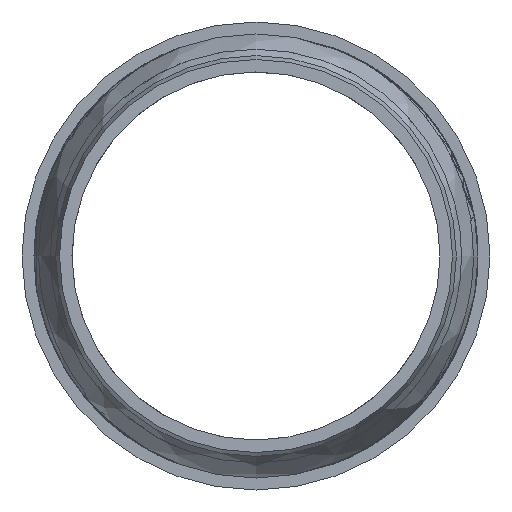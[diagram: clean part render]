
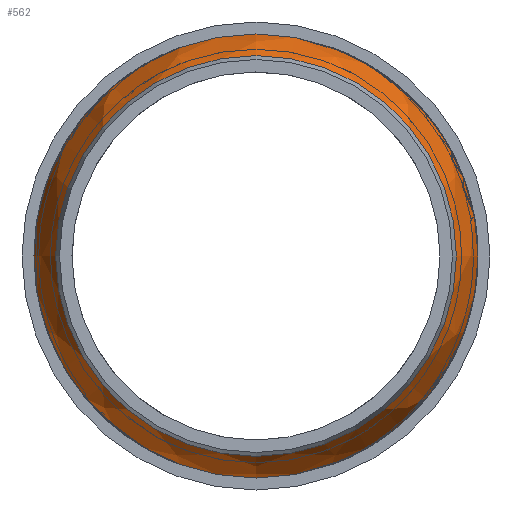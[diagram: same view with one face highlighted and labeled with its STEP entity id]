
A CAD part, left-side view. The second image highlights one B-rep face of the part: STEP entity #562.
In plain terms, the highlighted free-form (B-spline) face has degree [2, 2] with [3, 9] control points.
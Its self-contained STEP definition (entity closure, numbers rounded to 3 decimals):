
#11=(
BOUNDED_CURVE()
B_SPLINE_CURVE(2,(#2081,#2082,#2083),.UNSPECIFIED.,.F.,.F.)
B_SPLINE_CURVE_WITH_KNOTS((3,3),(0.138,0.646),
 .UNSPECIFIED.)
CURVE()
GEOMETRIC_REPRESENTATION_ITEM()
RATIONAL_B_SPLINE_CURVE((1.,0.968,1.))
REPRESENTATION_ITEM('')
);
#12=(
BOUNDED_SURFACE()
B_SPLINE_SURFACE(2,2,((#2054,#2055,#2056,#2057,#2058,#2059,#2060,#2061,
#2062),(#2063,#2064,#2065,#2066,#2067,#2068,#2069,#2070,#2071),(#2072,#2073,
#2074,#2075,#2076,#2077,#2078,#2079,#2080)),.UNSPECIFIED.,.F.,.T.,.F.)
B_SPLINE_SURFACE_WITH_KNOTS((3,3),(3,2,2,2,3),(-0.646,-0.138),
(-3.142,-1.571,0.,1.571,3.142),
 .UNSPECIFIED.)
GEOMETRIC_REPRESENTATION_ITEM()
RATIONAL_B_SPLINE_SURFACE(((1.,0.707,1.,0.707,1.,
0.707,1.,0.707,1.),(0.968,0.684,
0.968,0.684,0.968,0.684,
0.968,0.684,0.968),(1.,0.707,
1.,0.707,1.,0.707,1.,0.707,1.)))
REPRESENTATION_ITEM('')
SURFACE()
);
#147=FACE_OUTER_BOUND('',#207,.T.);
#207=EDGE_LOOP('',(#468,#469,#470,#471,#472,#473,#474));
#233=CIRCLE('',#603,61.05);
#234=CIRCLE('',#604,61.05);
#235=CIRCLE('',#605,61.05);
#241=CIRCLE('',#624,55.1);
#242=CIRCLE('',#625,55.1);
#275=VERTEX_POINT('',#1397);
#284=VERTEX_POINT('',#1789);
#285=VERTEX_POINT('',#1790);
#296=VERTEX_POINT('',#2050);
#297=VERTEX_POINT('',#2051);
#343=EDGE_CURVE('',#284,#285,#233,.T.);
#344=EDGE_CURVE('',#285,#275,#234,.T.);
#345=EDGE_CURVE('',#275,#284,#235,.T.);
#357=EDGE_CURVE('',#296,#297,#241,.T.);
#358=EDGE_CURVE('',#297,#296,#242,.T.);
#359=EDGE_CURVE('',#285,#297,#11,.T.);
#468=ORIENTED_EDGE('',*,*,#343,.F.);
#469=ORIENTED_EDGE('',*,*,#345,.F.);
#470=ORIENTED_EDGE('',*,*,#344,.F.);
#471=ORIENTED_EDGE('',*,*,#359,.T.);
#472=ORIENTED_EDGE('',*,*,#358,.T.);
#473=ORIENTED_EDGE('',*,*,#357,.T.);
#474=ORIENTED_EDGE('',*,*,#359,.F.);
#562=ADVANCED_FACE('',(#147),#12,.F.);
#603=AXIS2_PLACEMENT_3D('',#1791,#697,#698);
#604=AXIS2_PLACEMENT_3D('',#1792,#699,#700);
#605=AXIS2_PLACEMENT_3D('',#1793,#701,#702);
#624=AXIS2_PLACEMENT_3D('',#2052,#739,#740);
#625=AXIS2_PLACEMENT_3D('',#2053,#741,#742);
#697=DIRECTION('center_axis',(1.,0.,0.));
#698=DIRECTION('ref_axis',(0.,0.,1.));
#699=DIRECTION('center_axis',(1.,0.,0.));
#700=DIRECTION('ref_axis',(0.,0.,1.));
#701=DIRECTION('center_axis',(1.,0.,0.));
#702=DIRECTION('ref_axis',(0.,0.,1.));
#739=DIRECTION('center_axis',(1.,0.,0.));
#740=DIRECTION('ref_axis',(0.,0.,1.));
#741=DIRECTION('center_axis',(1.,0.,0.));
#742=DIRECTION('ref_axis',(0.,0.,1.));
#1397=CARTESIAN_POINT('',(1511.5,61.05,0.));
#1789=CARTESIAN_POINT('',(1511.5,-61.05,0.));
#1790=CARTESIAN_POINT('',(1511.5,0.,-61.05));
#1791=CARTESIAN_POINT('Origin',(1511.5,0.,
0.));
#1792=CARTESIAN_POINT('Origin',(1511.5,0.,
0.));
#1793=CARTESIAN_POINT('Origin',(1511.5,0.,
0.));
#2050=CARTESIAN_POINT('',(1497.1,-55.1,0.));
#2051=CARTESIAN_POINT('',(1497.1,0.,-55.1));
#2052=CARTESIAN_POINT('Origin',(1497.1,0.,
0.));
#2053=CARTESIAN_POINT('Origin',(1497.1,0.,
0.));
#2054=CARTESIAN_POINT('Ctrl Pts',(1497.1,0.,
-55.1));
#2055=CARTESIAN_POINT('Ctrl Pts',(1497.1,55.1,-55.1));
#2056=CARTESIAN_POINT('Ctrl Pts',(1497.1,55.1,0.));
#2057=CARTESIAN_POINT('Ctrl Pts',(1497.1,55.1,55.1));
#2058=CARTESIAN_POINT('Ctrl Pts',(1497.1,0.,
55.1));
#2059=CARTESIAN_POINT('Ctrl Pts',(1497.1,-55.1,55.1));
#2060=CARTESIAN_POINT('Ctrl Pts',(1497.1,-55.1,0.));
#2061=CARTESIAN_POINT('Ctrl Pts',(1497.1,-55.1,-55.1));
#2062=CARTESIAN_POINT('Ctrl Pts',(1497.1,0.,
-55.1));
#2063=CARTESIAN_POINT('Ctrl Pts',(1503.528,0.,
-59.944));
#2064=CARTESIAN_POINT('Ctrl Pts',(1503.528,59.944,-59.944));
#2065=CARTESIAN_POINT('Ctrl Pts',(1503.528,59.944,0.));
#2066=CARTESIAN_POINT('Ctrl Pts',(1503.528,59.944,59.944));
#2067=CARTESIAN_POINT('Ctrl Pts',(1503.528,0.,
59.944));
#2068=CARTESIAN_POINT('Ctrl Pts',(1503.528,-59.944,59.944));
#2069=CARTESIAN_POINT('Ctrl Pts',(1503.528,-59.944,0.));
#2070=CARTESIAN_POINT('Ctrl Pts',(1503.528,-59.944,-59.944));
#2071=CARTESIAN_POINT('Ctrl Pts',(1503.528,0.,
-59.944));
#2072=CARTESIAN_POINT('Ctrl Pts',(1511.5,0.,
-61.05));
#2073=CARTESIAN_POINT('Ctrl Pts',(1511.5,61.05,-61.05));
#2074=CARTESIAN_POINT('Ctrl Pts',(1511.5,61.05,0.));
#2075=CARTESIAN_POINT('Ctrl Pts',(1511.5,61.05,61.05));
#2076=CARTESIAN_POINT('Ctrl Pts',(1511.5,0.,
61.05));
#2077=CARTESIAN_POINT('Ctrl Pts',(1511.5,-61.05,61.05));
#2078=CARTESIAN_POINT('Ctrl Pts',(1511.5,-61.05,0.));
#2079=CARTESIAN_POINT('Ctrl Pts',(1511.5,-61.05,-61.05));
#2080=CARTESIAN_POINT('Ctrl Pts',(1511.5,0.,
-61.05));
#2081=CARTESIAN_POINT('Ctrl Pts',(1511.5,0.,
-61.05));
#2082=CARTESIAN_POINT('Ctrl Pts',(1503.528,0.,
-59.944));
#2083=CARTESIAN_POINT('Ctrl Pts',(1497.1,0.,
-55.1));
